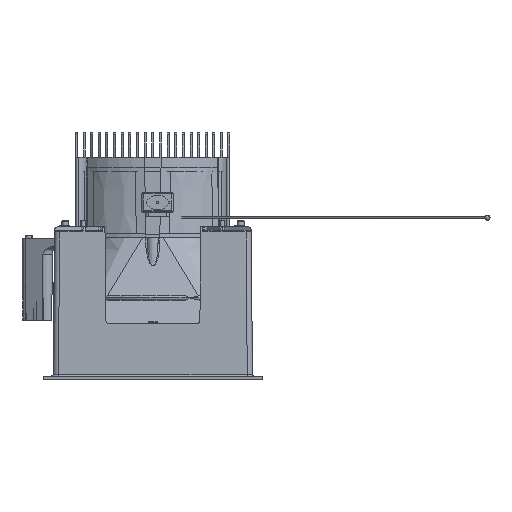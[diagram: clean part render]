
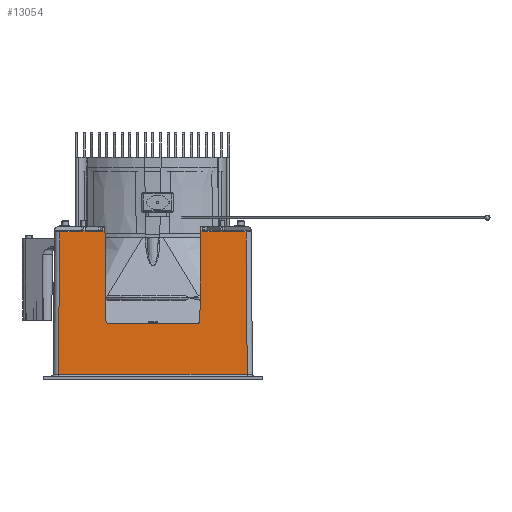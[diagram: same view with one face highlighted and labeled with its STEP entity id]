
A CAD part, left-side view. The second image highlights one B-rep face of the part: STEP entity #13054.
In plain terms, the highlighted planar face has unit normal (-1, 0, 0.009).
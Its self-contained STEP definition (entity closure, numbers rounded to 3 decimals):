
#613=CARTESIAN_POINT('',(-56.577,-28.735,82.809));
#619=DIRECTION('',(-0.009,0.035,-0.999));
#620=VECTOR('',#619,2.019);
#621=CARTESIAN_POINT('',(-56.569,-27.57,83.817));
#622=LINE('',#621,#620);
#623=DIRECTION('',(0.,1.,0.));
#624=VECTOR('',#623,1.129);
#625=CARTESIAN_POINT('',(-56.569,-28.699,83.817));
#626=LINE('',#625,#624);
#627=DIRECTION('',(0.009,0.035,0.999));
#628=VECTOR('',#627,1.009);
#629=CARTESIAN_POINT('',(-56.577,-28.735,82.809));
#630=LINE('',#629,#628);
#631=DIRECTION('',(0.,1.,0.));
#632=VECTOR('',#631,10.107);
#633=CARTESIAN_POINT('',(-56.577,-38.841,82.809));
#634=LINE('',#633,#632);
#635=DIRECTION('',(-0.009,0.036,-0.999));
#636=VECTOR('',#635,1.009);
#637=CARTESIAN_POINT('',(-56.569,-38.878,83.817));
#638=LINE('',#637,#636);
#639=DIRECTION('',(0.,1.,0.));
#640=VECTOR('',#639,1.463);
#641=CARTESIAN_POINT('',(-56.569,-40.341,83.817));
#642=LINE('',#641,#640);
#643=DIRECTION('',(0.009,0.049,0.999));
#644=VECTOR('',#643,1.01);
#645=CARTESIAN_POINT('',(-56.577,-40.391,82.809));
#646=LINE('',#645,#644);
#647=DIRECTION('',(0.,1.,0.));
#648=VECTOR('',#647,13.187);
#649=CARTESIAN_POINT('',(-56.577,-53.577,82.809));
#650=LINE('',#649,#648);
#651=DIRECTION('',(0.009,0.009,1.));
#652=VECTOR('',#651,81.824);
#653=CARTESIAN_POINT('',(-57.291,-54.291,
0.991));
#654=LINE('',#653,#652);
#655=DIRECTION('',(0.,-1.,0.));
#656=VECTOR('',#655,108.583);
#657=CARTESIAN_POINT('',(-57.291,54.291,0.991));
#658=LINE('',#657,#656);
#659=DIRECTION('',(-0.009,0.009,-1.));
#660=VECTOR('',#659,81.824);
#661=CARTESIAN_POINT('',(-56.577,53.577,82.809));
#662=LINE('',#661,#660);
#663=DIRECTION('',(0.,1.,0.));
#664=VECTOR('',#663,13.187);
#665=CARTESIAN_POINT('',(-56.577,40.391,82.809));
#666=LINE('',#665,#664);
#667=DIRECTION('',(-0.009,0.049,-0.999));
#668=VECTOR('',#667,1.01);
#669=CARTESIAN_POINT('',(-56.569,40.341,83.817));
#670=LINE('',#669,#668);
#671=DIRECTION('',(0.,1.,0.));
#672=VECTOR('',#671,1.463);
#673=CARTESIAN_POINT('',(-56.569,38.878,83.817));
#674=LINE('',#673,#672);
#675=DIRECTION('',(0.009,0.036,0.999));
#676=VECTOR('',#675,1.009);
#677=CARTESIAN_POINT('',(-56.577,38.841,82.809));
#678=LINE('',#677,#676);
#679=DIRECTION('',(0.,1.,0.));
#680=VECTOR('',#679,10.107);
#681=CARTESIAN_POINT('',(-56.577,28.735,82.809));
#682=LINE('',#681,#680);
#683=DIRECTION('',(-0.009,0.035,-0.999));
#684=VECTOR('',#683,1.009);
#685=CARTESIAN_POINT('',(-56.569,28.699,83.817));
#686=LINE('',#685,#684);
#687=DIRECTION('',(0.,1.,0.));
#688=VECTOR('',#687,1.129);
#689=CARTESIAN_POINT('',(-56.569,27.57,83.817));
#690=LINE('',#689,#688);
#691=DIRECTION('',(0.009,0.035,0.999));
#692=VECTOR('',#691,2.019);
#693=CARTESIAN_POINT('',(-56.586,27.5,81.8));
#694=LINE('',#693,#692);
#695=DIRECTION('',(0.,1.,0.));
#696=VECTOR('',#695,50.132);
#697=CARTESIAN_POINT('',(-57.037,-25.066,30.1));
#698=LINE('',#697,#696);
#699=CARTESIAN_POINT('',(-56.569,-27.57,83.817));
#731=DIRECTION('',(0.009,-0.009,1.));
#732=VECTOR('',#731,49.721);
#733=CARTESIAN_POINT('',(-57.02,-27.066,32.083));
#734=LINE('',#733,#732);
#803=CARTESIAN_POINT('',(-57.037,-25.066,30.1));
#804=CARTESIAN_POINT('',(-57.037,-25.397,30.1));
#805=CARTESIAN_POINT('',(-57.036,-25.916,30.243));
#806=CARTESIAN_POINT('',(-57.033,-26.503,30.65));
#807=CARTESIAN_POINT('',(-57.027,-26.916,31.234));
#808=CARTESIAN_POINT('',(-57.023,-27.063,31.752));
#809=CARTESIAN_POINT('',(-57.02,-27.066,32.083));
#1041=CARTESIAN_POINT('',(-57.02,27.066,32.083));
#1042=CARTESIAN_POINT('',(-57.023,27.063,31.752));
#1043=CARTESIAN_POINT('',(-57.027,26.916,31.234));
#1044=CARTESIAN_POINT('',(-57.033,26.503,30.65));
#1045=CARTESIAN_POINT('',(-57.036,25.916,30.243));
#1046=CARTESIAN_POINT('',(-57.037,25.397,30.1));
#1047=CARTESIAN_POINT('',(-57.037,25.066,30.1));
#1053=DIRECTION('',(-0.009,-0.009,-1.));
#1054=VECTOR('',#1053,49.721);
#1055=CARTESIAN_POINT('',(-56.586,27.5,81.8));
#1056=LINE('',#1055,#1054);
#2069=CARTESIAN_POINT('',(-56.569,40.341,83.817));
#2109=CARTESIAN_POINT('',(-56.577,38.841,82.809));
#2158=CARTESIAN_POINT('',(-56.569,28.699,83.817));
#2170=CARTESIAN_POINT('',(-56.577,28.735,82.809));
#2516=CARTESIAN_POINT('',(-57.291,54.291,
0.991));
#2571=CARTESIAN_POINT('',(-57.291,-54.291,
0.991));
#2632=CARTESIAN_POINT('',(-56.569,-38.878,
83.817));
#2645=CARTESIAN_POINT('',(-56.577,-38.841,
82.809));
#10471=CARTESIAN_POINT('',(-56.586,27.5,81.8));
#10472=VERTEX_POINT('',#10471);
#10473=CARTESIAN_POINT('',(-57.02,27.066,
32.083));
#10474=VERTEX_POINT('',#10473);
#10475=CARTESIAN_POINT('',(-57.02,-27.066,
32.083));
#10476=VERTEX_POINT('',#10475);
#10477=CARTESIAN_POINT('',(-56.586,-27.5,81.8));
#10478=VERTEX_POINT('',#10477);
#10667=VERTEX_POINT('',#2571);
#10709=VERTEX_POINT('',#2516);
#10714=VERTEX_POINT('',#1047);
#10717=CARTESIAN_POINT('',(-57.037,-25.066,30.1));
#10718=VERTEX_POINT('',#10717);
#11307=CARTESIAN_POINT('',(-56.577,53.577,
82.809));
#11308=VERTEX_POINT('',#11307);
#11309=CARTESIAN_POINT('',(-56.577,40.391,
82.809));
#11310=VERTEX_POINT('',#11309);
#11317=VERTEX_POINT('',#2170);
#11318=VERTEX_POINT('',#2109);
#11366=CARTESIAN_POINT('',(-56.577,-53.577,
82.809));
#11367=VERTEX_POINT('',#11366);
#11379=CARTESIAN_POINT('',(-56.577,-40.391,
82.809));
#11380=VERTEX_POINT('',#11379);
#11385=VERTEX_POINT('',#2645);
#11386=VERTEX_POINT('',#613);
#11387=CARTESIAN_POINT('',(-56.569,27.57,
83.817));
#11388=VERTEX_POINT('',#11387);
#11391=VERTEX_POINT('',#2158);
#11393=VERTEX_POINT('',#2069);
#11395=CARTESIAN_POINT('',(-56.569,38.878,
83.817));
#11396=VERTEX_POINT('',#11395);
#11484=CARTESIAN_POINT('',(-56.569,-40.341,
83.817));
#11485=VERTEX_POINT('',#11484);
#11488=VERTEX_POINT('',#2632);
#11490=VERTEX_POINT('',#699);
#11492=CARTESIAN_POINT('',(-56.569,-28.699,
83.817));
#11493=VERTEX_POINT('',#11492);
#13000=CARTESIAN_POINT('',(-57.3,0.,0.));
#13001=DIRECTION('',(-1.,0.,0.009));
#13002=DIRECTION('',(0.,1.,0.));
#13003=AXIS2_PLACEMENT_3D('',#13000,#13001,#13002);
#13004=PLANE('',#13003);
#13006=ORIENTED_EDGE('',*,*,#13005,.F.);
#13008=ORIENTED_EDGE('',*,*,#13007,.F.);
#13009=ORIENTED_EDGE('',*,*,#12986,.F.);
#13011=ORIENTED_EDGE('',*,*,#13010,.F.);
#13013=ORIENTED_EDGE('',*,*,#13012,.F.);
#13015=ORIENTED_EDGE('',*,*,#13014,.F.);
#13017=ORIENTED_EDGE('',*,*,#13016,.F.);
#13019=ORIENTED_EDGE('',*,*,#13018,.F.);
#13021=ORIENTED_EDGE('',*,*,#13020,.F.);
#13023=ORIENTED_EDGE('',*,*,#13022,.F.);
#13025=ORIENTED_EDGE('',*,*,#13024,.F.);
#13027=ORIENTED_EDGE('',*,*,#13026,.F.);
#13029=ORIENTED_EDGE('',*,*,#13028,.F.);
#13031=ORIENTED_EDGE('',*,*,#13030,.F.);
#13033=ORIENTED_EDGE('',*,*,#13032,.F.);
#13035=ORIENTED_EDGE('',*,*,#13034,.F.);
#13037=ORIENTED_EDGE('',*,*,#13036,.F.);
#13039=ORIENTED_EDGE('',*,*,#13038,.F.);
#13041=ORIENTED_EDGE('',*,*,#13040,.F.);
#13043=ORIENTED_EDGE('',*,*,#13042,.T.);
#13045=ORIENTED_EDGE('',*,*,#13044,.T.);
#13047=ORIENTED_EDGE('',*,*,#13046,.F.);
#13049=ORIENTED_EDGE('',*,*,#13048,.T.);
#13051=ORIENTED_EDGE('',*,*,#13050,.T.);
#13052=EDGE_LOOP('',(#13006,#13008,#13009,#13011,#13013,#13015,#13017,#13019,
#13021,#13023,#13025,#13027,#13029,#13031,#13033,#13035,#13037,#13039,#13041,
#13043,#13045,#13047,#13049,#13051));
#13053=FACE_OUTER_BOUND('',#13052,.F.);
#13054=ADVANCED_FACE('',(#13053),#13004,.T.);
#810=B_SPLINE_CURVE_WITH_KNOTS('',3,(#803,#804,#805,#806,#807,#808,#809),
.UNSPECIFIED.,.F.,.F.,(4,1,1,1,4),(0.,0.25,0.5,0.75,1.),
.UNSPECIFIED.);
#1048=B_SPLINE_CURVE_WITH_KNOTS('',3,(#1041,#1042,#1043,#1044,#1045,#1046,
#1047),.UNSPECIFIED.,.F.,.F.,(4,1,1,1,4),(0.,0.25,0.5,0.75,1.),
.UNSPECIFIED.);
#12986=EDGE_CURVE('',#11386,#11493,#630,.T.);
#13005=EDGE_CURVE('',#11490,#10478,#622,.T.);
#13007=EDGE_CURVE('',#11493,#11490,#626,.T.);
#13010=EDGE_CURVE('',#11385,#11386,#634,.T.);
#13012=EDGE_CURVE('',#11488,#11385,#638,.T.);
#13014=EDGE_CURVE('',#11485,#11488,#642,.T.);
#13016=EDGE_CURVE('',#11380,#11485,#646,.T.);
#13018=EDGE_CURVE('',#11367,#11380,#650,.T.);
#13020=EDGE_CURVE('',#10667,#11367,#654,.T.);
#13022=EDGE_CURVE('',#10709,#10667,#658,.T.);
#13024=EDGE_CURVE('',#11308,#10709,#662,.T.);
#13026=EDGE_CURVE('',#11310,#11308,#666,.T.);
#13028=EDGE_CURVE('',#11393,#11310,#670,.T.);
#13030=EDGE_CURVE('',#11396,#11393,#674,.T.);
#13032=EDGE_CURVE('',#11318,#11396,#678,.T.);
#13034=EDGE_CURVE('',#11317,#11318,#682,.T.);
#13036=EDGE_CURVE('',#11391,#11317,#686,.T.);
#13038=EDGE_CURVE('',#11388,#11391,#690,.T.);
#13040=EDGE_CURVE('',#10472,#11388,#694,.T.);
#13042=EDGE_CURVE('',#10472,#10474,#1056,.T.);
#13044=EDGE_CURVE('',#10474,#10714,#1048,.T.);
#13046=EDGE_CURVE('',#10718,#10714,#698,.T.);
#13048=EDGE_CURVE('',#10718,#10476,#810,.T.);
#13050=EDGE_CURVE('',#10476,#10478,#734,.T.);
